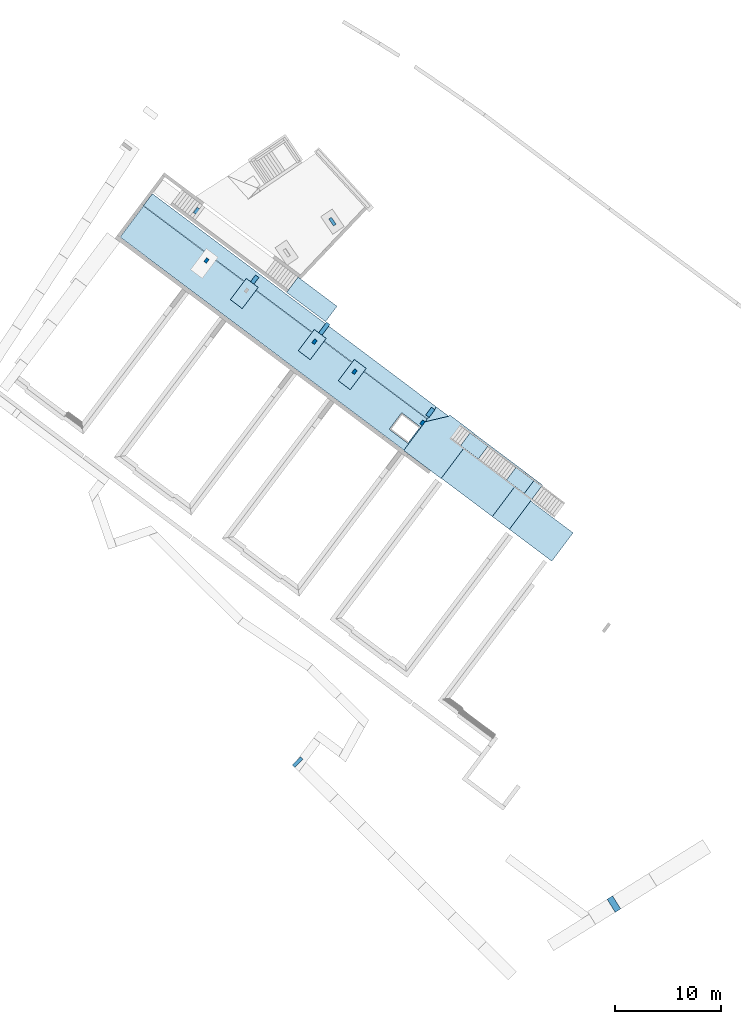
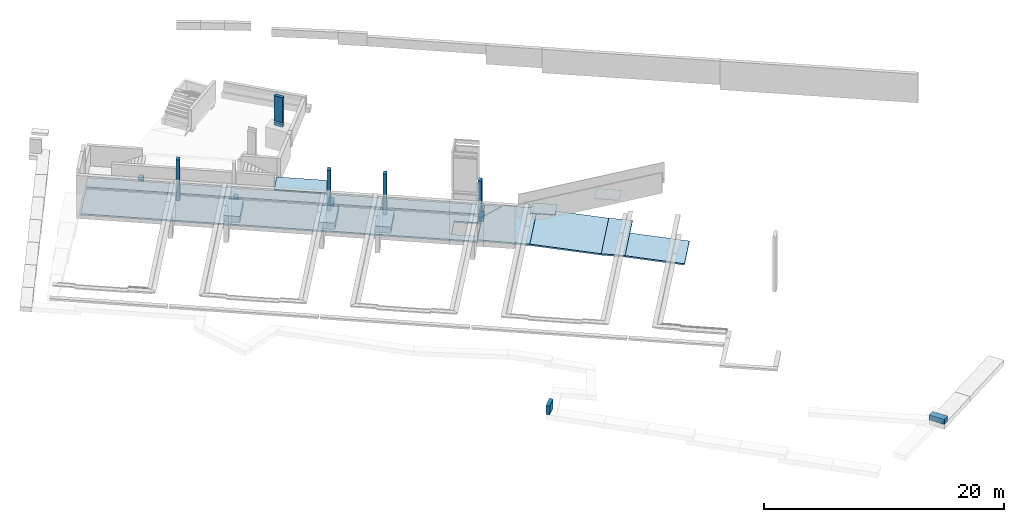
# One storey, part 2 of 11: 15 slabs, 5 columns, 4 beams, 1 opening, 3 elements without a shape of their own.
"""IFC2X3 building model written with IfcOpenShell, lengths in metres."""

import ifcopenshell
import ifcopenshell.guid

model = None  # the IFC model being written
_history = None  # IfcOwnerHistory: only IFC2X3 demands one
_inside = {}  # id of a spatial element -> (the spatial element, [elements in it])
_under = {}  # id of a project, library or spatial element -> (it, [spatial elements below it])
_declared = {}  # id of a project -> (the project, [libraries it declares])
_typed = {}  # id of a type object -> (the type object, [elements of that type])
_made_of = {}  # id of a material, layer set ... -> (it, [elements and type objects made of it])


def new_model(schema):
    """Start an empty IFC model of exactly this schema.

    Asked for "IFC4X3", IfcOpenShell would pick the latest addendum, in which some entities
    have other attributes; the version numbers below select the first issue.
    IFC2X3 requires an IfcOwnerHistory on every rooted entity: one is made here for all.
    """
    global model, _history
    if schema == "IFC4X3":
        model = ifcopenshell.file(schema_version=(4, 3, 0, 0))
    else:
        model = ifcopenshell.file(schema=schema)
    _inside.clear()
    _under.clear()
    _declared.clear()
    _typed.clear()
    _made_of.clear()
    _history = None
    if model.schema == "IFC2X3":
        org = make("IfcOrganization", Name="unknown")
        user = make(
            "IfcPersonAndOrganization",
            ThePerson=make("IfcPerson", FamilyName="unknown"),
            TheOrganization=org,
        )
        app = make(
            "IfcApplication",
            ApplicationDeveloper=org,
            Version="unknown",
            ApplicationFullName="unknown",
            ApplicationIdentifier="unknown",
        )
        _history = make(
            "IfcOwnerHistory",
            OwningUser=user,
            OwningApplication=app,
            ChangeAction="ADDED",
            CreationDate=0,
        )
    return model


def make(cls, **values):
    """One entity of the class cls with the attributes given. An attribute that is None is left unset."""
    return model.create_entity(
        cls, **{name: value for name, value in values.items() if value is not None}
    )


def entity(cls, *values):
    """Any entity or typed value of the class cls, its attributes in the order of the schema. None: left unset."""
    e = model.create_entity(cls)
    for i, value in enumerate(values):
        if value is not None:
            e[i] = value
    return e


def rooted(cls, **values):
    """An entity with a GlobalId (a new one), such as an element, a storey or a relation."""
    return make(cls, GlobalId=ifcopenshell.guid.new(), OwnerHistory=_history, **values)


def si_unit(unit_type, name, prefix=None):
    """IfcSIUnit, for example si_unit("LENGTHUNIT", "METRE", prefix="MILLI")."""
    return make("IfcSIUnit", UnitType=unit_type, Prefix=prefix, Name=name)


def converted_unit(unit_type, name, factor, base, dimensions=None, offset=None):
    """IfcConversionBasedUnit, such as the inch: factor (a typed value) times the base unit."""
    return make(
        "IfcConversionBasedUnit"
        if offset is None
        else "IfcConversionBasedUnitWithOffset",
        ConversionOffset=offset,
        Dimensions=None
        if dimensions is None
        else entity("IfcDimensionalExponents", *dimensions),
        UnitType=unit_type,
        Name=name,
        ConversionFactor=make(
            "IfcMeasureWithUnit", ValueComponent=factor, UnitComponent=base
        ),
    )


def derived_unit(unit_type, elements):
    """IfcDerivedUnit: a product of units, each with its exponent."""
    return make(
        "IfcDerivedUnit",
        Elements=[
            make("IfcDerivedUnitElement", Unit=unit, Exponent=power)
            for unit, power in elements
        ],
        UnitType=unit_type,
    )


def assignment(units):
    """IfcUnitAssignment: the units of a project."""
    return None if units is None else make("IfcUnitAssignment", Units=units)


def point(xyz):
    """IfcCartesianPoint."""
    return None if xyz is None else make("IfcCartesianPoint", Coordinates=xyz)


def direction(xyz):
    """IfcDirection."""
    return None if xyz is None else make("IfcDirection", DirectionRatios=xyz)


def frame(location, z_axis=None, x_axis=None):
    """IfcAxis2Placement3D, a coordinate frame: its origin and axes. An axis left out is left unset."""
    return make(
        "IfcAxis2Placement3D",
        Location=point(location),
        Axis=direction(z_axis),
        RefDirection=direction(x_axis),
    )


def frame_2d(location, x_axis=None):
    """IfcAxis2Placement2D, a coordinate frame in the plane: its origin and x axis."""
    return make(
        "IfcAxis2Placement2D", Location=point(location), RefDirection=direction(x_axis)
    )


def origin():
    """The frame at (0, 0, 0) with its axes left unset."""
    return frame((0.0, 0.0, 0.0))


def origin_2d_with_axis():
    """The frame at (0, 0) in the plane with the x axis (1, 0) written out."""
    return frame_2d((0.0, 0.0), x_axis=(1.0, 0.0))


def place(relative_to, where):
    """IfcLocalPlacement: puts the frame where relative to a parent placement (None: the world)."""
    return make(
        "IfcLocalPlacement", PlacementRelTo=relative_to, RelativePlacement=where
    )


def context(
    kind, dimensions, precision=None, world=None, true_north=None, identifier=None
):
    """IfcGeometricRepresentationContext, for example the 3D "Model" context."""
    return make(
        "IfcGeometricRepresentationContext",
        ContextIdentifier=identifier,
        ContextType=kind,
        CoordinateSpaceDimension=dimensions,
        Precision=precision,
        WorldCoordinateSystem=world,
        TrueNorth=true_north,
    )


def subcontext(parent, identifier, kind, view, scale=None):
    """IfcGeometricRepresentationSubContext, for example "Body" below "Model"."""
    return make(
        "IfcGeometricRepresentationSubContext",
        ContextIdentifier=identifier,
        ContextType=kind,
        ParentContext=parent,
        TargetScale=scale,
        TargetView=view,
    )


def project(units=None, contexts=None):
    """IfcProject with its units and contexts."""
    return rooted(
        "IfcProject",
        Name="project",
        RepresentationContexts=contexts,
        UnitsInContext=assignment(units),
    )


def spatial(cls, under=None, at=None, **own):
    """A site, building, storey or space (cls), placed at a placement, below another one or the project."""
    s = rooted(cls, ObjectPlacement=at, **own)
    if under is not None:
        _under.setdefault(under.id(), (under, []))[1].append(s)
    return s


def polyline(points):
    """IfcPolyline through the points."""
    return make("IfcPolyline", Points=[point(p) for p in points])


def profile(cls, at=None, kind="AREA", **sizes):
    """A parametric profile (cls). Its sizes go by their IFC names, for example OverallWidth=200.0."""
    return make(cls, ProfileType=kind, Position=at, **sizes)


def rectangle(**sizes):
    """IfcRectangleProfileDef."""
    return profile("IfcRectangleProfileDef", **sizes)


def outline(outer, holes=None, kind="AREA"):
    """IfcArbitraryClosedProfileDef: a profile drawn as a closed curve; with holes, ...WithVoids."""
    if holes is None:
        return make("IfcArbitraryClosedProfileDef", ProfileType=kind, OuterCurve=outer)
    return make(
        "IfcArbitraryProfileDefWithVoids",
        ProfileType=kind,
        OuterCurve=outer,
        InnerCurves=holes,
    )


def extrude(swept, where, along, depth):
    """IfcExtrudedAreaSolid: the profile swept, set in the frame where, extruded along a direction by depth."""
    return make(
        "IfcExtrudedAreaSolid",
        SweptArea=swept,
        Position=where,
        ExtrudedDirection=direction(along),
        Depth=depth,
    )


def clip(a, b, op="DIFFERENCE"):
    """IfcBooleanClippingResult: the solid a cut by the half space b."""
    return make(
        "IfcBooleanClippingResult", Operator=op, FirstOperand=a, SecondOperand=b
    )


def halfspace(plane, agree):
    """IfcHalfSpaceSolid: all space on one side of the plane z = 0 of the frame plane."""
    return make(
        "IfcHalfSpaceSolid",
        BaseSurface=make("IfcPlane", Position=plane),
        AgreementFlag=agree,
    )


def shape(context_of_items, identifier, shape_type, items):
    """IfcShapeRepresentation: the items that make up one representation, for example the "Body"."""
    return make(
        "IfcShapeRepresentation",
        ContextOfItems=context_of_items,
        RepresentationIdentifier=identifier,
        RepresentationType=shape_type,
        Items=items,
    )


def source(mapping_origin, context_of_items, identifier, shape_type, items):
    """IfcRepresentationMap: a shape defined once, which mapped items show again and again."""
    return make(
        "IfcRepresentationMap",
        MappingOrigin=mapping_origin,
        MappedRepresentation=shape(context_of_items, identifier, shape_type, items),
    )


def transform(
    local_origin,
    x_axis=None,
    y_axis=None,
    z_axis=None,
    scale=None,
    scale2=None,
    scale3=None,
    uniform=True,
):
    """IfcCartesianTransformationOperator3D, or its non-uniform kind. x_axis, y_axis, z_axis: its Axis1, 2, 3."""
    if uniform:
        return make(
            "IfcCartesianTransformationOperator3D",
            Axis1=direction(x_axis),
            Axis2=direction(y_axis),
            LocalOrigin=point(local_origin),
            Scale=scale,
            Axis3=direction(z_axis),
        )
    return make(
        "IfcCartesianTransformationOperator3DnonUniform",
        Axis1=direction(x_axis),
        Axis2=direction(y_axis),
        LocalOrigin=point(local_origin),
        Scale=scale,
        Axis3=direction(z_axis),
        Scale2=scale2,
        Scale3=scale3,
    )


def mapped(mapping_source, mapping_target):
    """IfcMappedItem: shows the shape of a source again, moved by a transform."""
    return make(
        "IfcMappedItem", MappingSource=mapping_source, MappingTarget=mapping_target
    )


def material(Name=None, Category=None):
    """IfcMaterial."""
    return make("IfcMaterial", Name=Name, Category=Category)


def material_list(materials):
    """IfcMaterialList."""
    return make("IfcMaterialList", Materials=materials)


def layer(
    of_material, thickness, ventilated=None, Name=None, Category=None, Priority=None
):
    """IfcMaterialLayer: one layer of a wall or slab, of a material (None: an air gap)."""
    return make(
        "IfcMaterialLayer",
        Material=of_material,
        LayerThickness=thickness,
        IsVentilated=ventilated,
        Name=Name,
        Category=Category,
        Priority=Priority,
    )


def layer_set(layers, Name=None):
    """IfcMaterialLayerSet."""
    return make("IfcMaterialLayerSet", MaterialLayers=layers, LayerSetName=Name)


def layer_usage(for_layer_set, set_direction, sense, offset, extent=None):
    """IfcMaterialLayerSetUsage: how a layer set lies in its element."""
    return make(
        "IfcMaterialLayerSetUsage",
        ForLayerSet=for_layer_set,
        LayerSetDirection=set_direction,
        DirectionSense=sense,
        OffsetFromReferenceLine=offset,
        ReferenceExtent=extent,
    )


def made_of(thing, what):
    """Note that an element or type object is made of a material, layer set ...; save() writes the relation."""
    if what is not None:
        _made_of.setdefault(what.id(), (what, []))[1].append(thing)
    return thing


def type_object(cls, material=None, **own):
    """A type object (cls), such as IfcWallType, which elements share."""
    return made_of(rooted(cls, **own), material)


def type_shapes(of_type, sources):
    """Give a type object the sources (RepresentationMaps) that its elements show as mapped items."""
    of_type.RepresentationMaps = sources


def element(
    cls,
    number,
    at=None,
    inside=None,
    cuts=None,
    type_object=None,
    material=None,
    context=None,
    identifier="Body",
    shape_type=None,
    held_by="IfcProductDefinitionShape",
    body=None,
    shapes=None,
    **own,
):
    """One element of the class cls, such as IfcWall. Its Tag is "e" and its number.

    at: its placement. inside: the storey or other place that contains it. cuts: it is an
    opening in that element (IfcRelVoidsElement). A single representation is given by context,
    identifier, shape_type and body (its items); several are given by shapes. held_by: the class
    of the entity that holds the representations. save() writes the other relations.
    """
    e = rooted(cls, Tag="e%d" % number, ObjectPlacement=at, **own)
    if body is not None:
        shapes = [shape(context, identifier, shape_type, body)]
    if shapes is not None:
        e.Representation = make(held_by, Representations=shapes)
    if inside is not None:
        _inside.setdefault(inside.id(), (inside, []))[1].append(e)
    if cuts is not None:
        rooted(
            "IfcRelVoidsElement", RelatingBuildingElement=cuts, RelatedOpeningElement=e
        )
    if type_object is not None:
        _typed.setdefault(type_object.id(), (type_object, []))[1].append(e)
    return made_of(e, material)


def aggregate(whole, parts):
    """IfcRelAggregates: a whole, such as a stair, and the parts it consists of."""
    return rooted("IfcRelAggregates", RelatingObject=whole, RelatedObjects=parts)


def save(model, path):
    """Write the relations noted so far, then the file.

    IfcRelAggregates (storeys below a building ...), IfcRelContainedInSpatialStructure (elements
    in a storey), IfcRelDefinesByType, IfcRelAssociatesMaterial and IfcRelDeclares: one each for
    every whole, place, type object, material and project.
    """
    for whole, parts in _under.values():
        aggregate(whole, parts)
    for where, things in _inside.values():
        rooted(
            "IfcRelContainedInSpatialStructure",
            RelatedElements=things,
            RelatingStructure=where,
        )
    for kind, things in _typed.values():
        rooted("IfcRelDefinesByType", RelatedObjects=things, RelatingType=kind)
    for what, things in _made_of.values():
        rooted("IfcRelAssociatesMaterial", RelatedObjects=things, RelatingMaterial=what)
    for by, libraries in _declared.values():
        rooted("IfcRelDeclares", RelatingContext=by, RelatedDefinitions=libraries)
    model.write(path)


model = new_model("IFC2X3")

# Units and contexts
model_context = context("Model", 3, precision=1e-05, world=origin(), true_north=direction((6.123031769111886e-17, 1.0)))
body_context = subcontext(model_context, "Body", "Model", "MODEL_VIEW")
ifc_project = project(units=[si_unit("LENGTHUNIT", "METRE"), si_unit("AREAUNIT", "SQUARE_METRE"), si_unit("VOLUMEUNIT", "CUBIC_METRE"), converted_unit("PLANEANGLEUNIT", "DEGREE", entity("IfcRatioMeasure", 0.017453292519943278), si_unit("PLANEANGLEUNIT", "RADIAN"), dimensions=[0, 0, 0, 0, 0, 0, 0]), si_unit("MASSUNIT", "GRAM", prefix="KILO"), derived_unit("MASSDENSITYUNIT", [(si_unit("MASSUNIT", "GRAM", prefix="KILO"), 1), (si_unit("LENGTHUNIT", "METRE"), -3)]), derived_unit("IONCONCENTRATIONUNIT", [(si_unit("MASSUNIT", "GRAM", prefix="KILO"), 1), (si_unit("LENGTHUNIT", "METRE"), -3)]), derived_unit("MOMENTOFINERTIAUNIT", [(si_unit("LENGTHUNIT", "METRE"), 4)]), si_unit("TIMEUNIT", "SECOND"), si_unit("FREQUENCYUNIT", "HERTZ"), si_unit("THERMODYNAMICTEMPERATUREUNIT", "DEGREE_CELSIUS"), derived_unit("THERMALTRANSMITTANCEUNIT", [(si_unit("MASSUNIT", "GRAM", prefix="KILO"), 1), (si_unit("THERMODYNAMICTEMPERATUREUNIT", "KELVIN"), -1), (si_unit("TIMEUNIT", "SECOND"), -3)]), derived_unit("THERMALCONDUCTANCEUNIT", [(si_unit("MASSUNIT", "GRAM", prefix="KILO"), 1), (si_unit("THERMODYNAMICTEMPERATUREUNIT", "KELVIN"), -1), (si_unit("TIMEUNIT", "SECOND"), -3), (si_unit("LENGTHUNIT", "METRE"), 1)]), derived_unit("VOLUMETRICFLOWRATEUNIT", [(si_unit("LENGTHUNIT", "METRE"), 3), (si_unit("TIMEUNIT", "SECOND"), -1)]), derived_unit("MASSFLOWRATEUNIT", [(si_unit("MASSUNIT", "GRAM", prefix="KILO"), 1), (si_unit("TIMEUNIT", "SECOND"), -1)]), derived_unit("ROTATIONALFREQUENCYUNIT", [(si_unit("TIMEUNIT", "SECOND"), -1)]), si_unit("ELECTRICCURRENTUNIT", "AMPERE"), si_unit("ELECTRICVOLTAGEUNIT", "VOLT"), si_unit("POWERUNIT", "WATT"), si_unit("FORCEUNIT", "NEWTON", prefix="KILO"), si_unit("ILLUMINANCEUNIT", "LUX"), si_unit("LUMINOUSFLUXUNIT", "LUMEN"), si_unit("LUMINOUSINTENSITYUNIT", "CANDELA"), derived_unit("USERDEFINED", [(si_unit("MASSUNIT", "GRAM", prefix="KILO"), -1), (si_unit("LENGTHUNIT", "METRE"), -2), (si_unit("TIMEUNIT", "SECOND"), 3), (si_unit("LUMINOUSFLUXUNIT", "LUMEN"), 1)]), derived_unit("USERDEFINED", [(si_unit("MASSUNIT", "GRAM", prefix="KILO"), 1), (si_unit("TIMEUNIT", "SECOND"), -3), (si_unit("LENGTHUNIT", "METRE"), 3), (si_unit("ELECTRICCURRENTUNIT", "AMPERE"), -2)]), derived_unit("SOUNDPOWERUNIT", [(si_unit("MASSUNIT", "GRAM", prefix="KILO"), 1), (si_unit("TIMEUNIT", "SECOND"), -3), (si_unit("LENGTHUNIT", "METRE"), 2)]), derived_unit("SOUNDPRESSUREUNIT", [(si_unit("MASSUNIT", "GRAM", prefix="KILO"), 1), (si_unit("LENGTHUNIT", "METRE"), -1), (si_unit("TIMEUNIT", "SECOND"), -2)]), derived_unit("LINEARVELOCITYUNIT", [(si_unit("LENGTHUNIT", "METRE"), 1), (si_unit("TIMEUNIT", "SECOND"), -1)]), si_unit("PRESSUREUNIT", "PASCAL"), derived_unit("USERDEFINED", [(si_unit("MASSUNIT", "GRAM", prefix="KILO"), 1), (si_unit("LENGTHUNIT", "METRE"), -2), (si_unit("TIMEUNIT", "SECOND"), -2)]), derived_unit("LINEARFORCEUNIT", [(si_unit("MASSUNIT", "GRAM", prefix="KILO"), 1), (si_unit("TIMEUNIT", "SECOND"), -2)]), derived_unit("PLANARFORCEUNIT", [(si_unit("MASSUNIT", "GRAM", prefix="KILO"), 1), (si_unit("LENGTHUNIT", "METRE"), -1), (si_unit("TIMEUNIT", "SECOND"), -2)]), derived_unit("SPECIFICHEATCAPACITYUNIT", [(si_unit("THERMODYNAMICTEMPERATUREUNIT", "KELVIN"), -1), (si_unit("LENGTHUNIT", "METRE"), 2), (si_unit("TIMEUNIT", "SECOND"), -2)]), derived_unit("HEATINGVALUEUNIT", [(si_unit("LENGTHUNIT", "METRE"), 2), (si_unit("TIMEUNIT", "SECOND"), -2)]), derived_unit("VAPORPERMEABILITYUNIT", [(si_unit("LENGTHUNIT", "METRE"), -1), (si_unit("TIMEUNIT", "SECOND"), 1)]), derived_unit("DYNAMICVISCOSITYUNIT", [(si_unit("MASSUNIT", "GRAM", prefix="KILO"), 1), (si_unit("TIMEUNIT", "SECOND"), -1), (si_unit("LENGTHUNIT", "METRE"), -1)]), derived_unit("THERMALEXPANSIONCOEFFICIENTUNIT", [(si_unit("THERMODYNAMICTEMPERATUREUNIT", "KELVIN"), -1)]), derived_unit("MODULUSOFELASTICITYUNIT", [(si_unit("MASSUNIT", "GRAM", prefix="KILO"), 1), (si_unit("LENGTHUNIT", "METRE"), -1), (si_unit("TIMEUNIT", "SECOND"), -2)]), derived_unit("ISOTHERMALMOISTURECAPACITYUNIT", [(si_unit("LENGTHUNIT", "METRE"), 3), (si_unit("MASSUNIT", "GRAM", prefix="KILO"), -1)]), derived_unit("MOISTUREDIFFUSIVITYUNIT", [(si_unit("TIMEUNIT", "SECOND"), -1), (si_unit("LENGTHUNIT", "METRE"), 2)])], contexts=[model_context])

# Site, building, storey
site_placement = place(None, origin())
site = spatial("IfcSite", under=ifc_project, at=site_placement, Name="Default", CompositionType="ELEMENT")
building_placement = place(site_placement, frame((0.0, 0.0, 235.0), z_axis=(0.0, 0.0, 1.0), x_axis=(-0.7996477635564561, 0.6004693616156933, 0.0)))
building = spatial("IfcBuilding", under=site, at=building_placement, CompositionType="ELEMENT")
storey_placement = place(building_placement, frame((0.0, 0.0, -4.459999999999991)))
storey = spatial("IfcBuildingStorey", under=building, at=storey_placement, Name="PS1- Vestuari", CompositionType="ELEMENT", Elevation=-4.459999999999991)

# Columns
ifc_material_1 = material(Name="_Formigó- T1- STR")
column_type_1 = type_object("IfcColumnType", Name="STR- P- Formigó- Rectangular- T1:30x45cm", PredefinedType="COLUMN", material=ifc_material_1)
shared_shape_1 = source(origin(), body_context, "Body", "SweptSolid", [
    extrude(rectangle(XDim=0.4500000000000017, YDim=0.3000000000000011, at=origin_2d_with_axis()), frame((66.59514768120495, -39.915191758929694, -4.899999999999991), z_axis=(0.0, 0.0, 1.0), x_axis=(0.0, -1.0, 0.0)), (0.0, 0.0, 1.0), 0.08999999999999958),
    extrude(rectangle(XDim=0.4500000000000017, YDim=0.3000000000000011, at=origin_2d_with_axis()), frame((66.59514768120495, -39.915191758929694, -4.659999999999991), z_axis=(0.0, 0.0, 1.0), x_axis=(0.0, -1.0, 0.0)), (0.0, 0.0, 1.0), 4.139999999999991),
])
type_shapes(column_type_1, [shared_shape_1])
column_1_placement = place(storey_placement, frame((0.0, 0.0, 4.459999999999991)))
element("IfcColumn", 1, at=column_1_placement, inside=storey, type_object=column_type_1, material=ifc_material_1, Name="STR- P- Formigó- Rectangular- T1:30x45cm", ObjectType="STR- P- Formigó- Rectangular- T1:30x45cm", context=body_context, shape_type="MappedRepresentation", body=[
    mapped(shared_shape_1, transform((0.0, 0.0, 0.0), scale=1.0)),
])
column_type_2 = type_object("IfcColumnType", Name="STR- P- Formigó- Rectangular- T1:30x45cm", PredefinedType="COLUMN", material=ifc_material_1)
shared_shape_2 = source(origin(), body_context, "Body", "SweptSolid", [
    extrude(rectangle(XDim=0.4500000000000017, YDim=0.3000000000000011, at=origin_2d_with_axis()), frame((53.895147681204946, -39.915191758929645, -4.899999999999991), z_axis=(0.0, 0.0, 1.0), x_axis=(0.0, -1.0, 0.0)), (0.0, 0.0, 1.0), 0.08999999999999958),
    extrude(rectangle(XDim=0.4500000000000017, YDim=0.3000000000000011, at=origin_2d_with_axis()), frame((53.895147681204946, -39.915191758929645, -4.659999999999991), z_axis=(0.0, 0.0, 1.0), x_axis=(0.0, -1.0, 0.0)), (0.0, 0.0, 1.0), 4.139999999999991),
])
type_shapes(column_type_2, [shared_shape_2])
column_2_placement = place(storey_placement, frame((0.0, 0.0, 4.459999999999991)))
element("IfcColumn", 2, at=column_2_placement, inside=storey, type_object=column_type_2, material=ifc_material_1, Name="STR- P- Formigó- Rectangular- T1:30x45cm", ObjectType="STR- P- Formigó- Rectangular- T1:30x45cm", context=body_context, shape_type="MappedRepresentation", body=[
    mapped(shared_shape_2, transform((0.0, 0.0, 0.0), scale=1.0)),
])
column_type_3 = type_object("IfcColumnType", Name="STR- P- Formigó- Rectangular- T1:30x45cm", PredefinedType="COLUMN", material=ifc_material_1)
shared_shape_3 = source(origin(), body_context, "Body", "SweptSolid", [
    extrude(rectangle(XDim=0.4500000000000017, YDim=0.3000000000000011, at=origin_2d_with_axis()), frame((49.19514768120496, -39.91519175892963, -4.899999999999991), z_axis=(0.0, 0.0, 1.0), x_axis=(0.0, -1.0, 0.0)), (0.0, 0.0, 1.0), 0.08999999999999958),
    extrude(rectangle(XDim=0.4500000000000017, YDim=0.3000000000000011, at=origin_2d_with_axis()), frame((49.19514768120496, -39.91519175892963, -4.659999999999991), z_axis=(0.0, 0.0, 1.0), x_axis=(0.0, -1.0, 0.0)), (0.0, 0.0, 1.0), 4.139999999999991),
])
type_shapes(column_type_3, [shared_shape_3])
column_3_placement = place(storey_placement, frame((0.0, 0.0, 4.459999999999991)))
element("IfcColumn", 3, at=column_3_placement, inside=storey, type_object=column_type_3, material=ifc_material_1, Name="STR- P- Formigó- Rectangular- T1:30x45cm", ObjectType="STR- P- Formigó- Rectangular- T1:30x45cm", context=body_context, shape_type="MappedRepresentation", body=[
    mapped(shared_shape_3, transform((0.0, 0.0, 0.0), scale=1.0)),
])
column_type_4 = type_object("IfcColumnType", Name="STR- P- Formigó- Rectangular- T1:30x45cm", PredefinedType="COLUMN", material=ifc_material_1)
shared_shape_4 = source(origin(), body_context, "Body", "SweptSolid", [
    extrude(rectangle(XDim=0.4500000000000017, YDim=0.3000000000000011, at=origin_2d_with_axis()), frame((41.19514768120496, -39.9151917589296, -4.899999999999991), z_axis=(0.0, 0.0, 1.0), x_axis=(0.0, -1.0, 0.0)), (0.0, 0.0, 1.0), 0.08999999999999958),
    extrude(rectangle(XDim=0.4500000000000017, YDim=0.3000000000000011, at=origin_2d_with_axis()), frame((41.19514768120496, -39.9151917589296, -4.659999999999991), z_axis=(0.0, 0.0, 1.0), x_axis=(0.0, -1.0, 0.0)), (0.0, 0.0, 1.0), 4.139999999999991),
])
type_shapes(column_type_4, [shared_shape_4])
column_4_placement = place(storey_placement, frame((0.0, 0.0, 4.459999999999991)))
element("IfcColumn", 4, at=column_4_placement, inside=storey, type_object=column_type_4, material=ifc_material_1, Name="STR- P- Formigó- Rectangular- T1:30x45cm", ObjectType="STR- P- Formigó- Rectangular- T1:30x45cm", context=body_context, shape_type="MappedRepresentation", body=[
    mapped(shared_shape_4, transform((0.0, 0.0, 0.0), scale=1.0)),
])
column_type_5 = type_object("IfcColumnType", Name="STR- P- Formigó- Rectangular- T1:30x80 cm", PredefinedType="COLUMN", material=ifc_material_1)
shared_shape_5 = source(origin(), body_context, "Body", "SweptSolid", [
    clip(extrude(rectangle(XDim=0.8000000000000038, YDim=0.3000000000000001, at=frame_2d((-2.8033131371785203e-15, 8.18789480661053e-15), x_axis=(1.0, 0.0))), frame((59.3191738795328, -49.950135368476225, -3.5199999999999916), z_axis=(0.0, 0.0, 1.0), x_axis=(-0.9460037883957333, 0.3241555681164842, 0.0)), (0.0, 0.0, 1.0), 0.2916001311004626), halfspace(frame((63.23614768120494, -44.140191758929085, -3.3500299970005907), z_axis=(0.0, 0.01999600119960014, 0.999800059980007), x_axis=(0.0, -0.999800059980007, 0.01999600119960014)), False)),
    clip(extrude(rectangle(XDim=0.8000000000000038, YDim=0.3000000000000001, at=frame_2d((-2.8033131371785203e-15, 8.18789480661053e-15), x_axis=(1.0, 0.0))), frame((59.3191738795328, -49.950135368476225, -3.0892323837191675), z_axis=(0.0, 0.0, 1.0), x_axis=(-0.9460037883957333, 0.3241555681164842, 0.0)), (0.0, 0.0, 1.0), 2.5692323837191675), halfspace(frame((63.23614768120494, -44.140191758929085, -3.199999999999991), z_axis=(0.0, -0.01999600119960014, -0.999800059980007), x_axis=(0.0, 0.999800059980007, -0.01999600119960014)), False)),
])
type_shapes(column_type_5, [shared_shape_5])
column_5_placement = place(storey_placement, frame((0.0, 0.0, 4.459999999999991)))
element("IfcColumn", 5, at=column_5_placement, inside=storey, type_object=column_type_5, material=ifc_material_1, Name="STR- P- Formigó- Rectangular- T1:30x80 cm", ObjectType="STR- P- Formigó- Rectangular- T1:30x80 cm", context=body_context, shape_type="MappedRepresentation", body=[
    mapped(shared_shape_5, transform((0.0, 0.0, 0.0), scale=1.0)),
])

# Beams
beam_type_1 = type_object("IfcBeamType", Name="STR- R- Formigó- Rectangular- T1:40x45 cm", PredefinedType="BEAM", material=ifc_material_1)
shared_shape_6 = source(origin(), body_context, "Body", "SweptSolid", [
    extrude(rectangle(XDim=0.4499999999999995, YDim=0.3999999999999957, at=frame_2d((4.3298697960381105e-15, 0.0), x_axis=(0.0, 1.0))), frame((53.895147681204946, -40.815191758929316, -5.124999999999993), z_axis=(0.0, -1.0, 0.0), x_axis=(-1.0, 0.0, 0.0)), (0.0, 0.0, 1.0), 1.2527000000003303),
    extrude(rectangle(XDim=0.04999999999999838, YDim=0.3999999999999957, at=frame_2d((0.0, -1.0824674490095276e-15), x_axis=(0.0, 1.0))), frame((53.895147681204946, -40.815191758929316, -5.374999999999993), z_axis=(0.0, -1.0, 0.0), x_axis=(-1.0, 0.0, 0.0)), (0.0, 0.0, 1.0), 1.2527000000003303),
])
type_shapes(beam_type_1, [shared_shape_6])
beam_1_placement = place(storey_placement, frame((0.0, 0.0, 4.459999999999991)))
element("IfcBeam", 6, at=beam_1_placement, inside=storey, type_object=beam_type_1, material=ifc_material_1, Name="STR- R- Formigó- Rectangular- T1:40x45 cm", ObjectType="STR- R- Formigó- Rectangular- T1:40x45 cm", context=body_context, shape_type="MappedRepresentation", body=[
    mapped(shared_shape_6, transform((0.0, 0.0, 0.0), scale=1.0)),
])
beam_type_2 = type_object("IfcBeamType", Name="STR- R- Formigó- Rectangular- T1:40x45 cm", PredefinedType="BEAM", material=ifc_material_1)
shared_shape_7 = source(origin(), body_context, "Body", "SweptSolid", [
    extrude(rectangle(XDim=0.4499999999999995, YDim=0.40000000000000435, at=frame_2d((4.3298697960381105e-15, 0.0), x_axis=(0.0, 1.0))), frame((61.895147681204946, -40.81519175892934, -5.124999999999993), z_axis=(0.0, -1.0, 0.0), x_axis=(-1.0, 0.0, 0.0)), (0.0, 0.0, 1.0), 0.7749999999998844),
    extrude(rectangle(XDim=0.04999999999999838, YDim=0.40000000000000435, at=frame_2d((0.0, 1.0824674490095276e-15), x_axis=(0.0, 1.0))), frame((61.895147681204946, -40.81519175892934, -5.374999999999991), z_axis=(0.0, -1.0, 0.0), x_axis=(-1.0, 0.0, 0.0)), (0.0, 0.0, 1.0), 0.7749999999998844),
])
type_shapes(beam_type_2, [shared_shape_7])
beam_2_placement = place(storey_placement, frame((0.0, 0.0, 4.459999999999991)))
element("IfcBeam", 7, at=beam_2_placement, inside=storey, type_object=beam_type_2, material=ifc_material_1, Name="STR- R- Formigó- Rectangular- T1:40x45 cm", ObjectType="STR- R- Formigó- Rectangular- T1:40x45 cm", context=body_context, shape_type="MappedRepresentation", body=[
    mapped(shared_shape_7, transform((0.0, 0.0, 0.0), scale=1.0)),
])
beam_type_3 = type_object("IfcBeamType", Name="STR- R- Formigó- Rectangular- T1:40x60 cm", PredefinedType="BEAM", material=ifc_material_1)
shared_shape_8 = source(origin(), body_context, "Body", "SweptSolid", [
    extrude(rectangle(XDim=0.6000000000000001, YDim=0.40000000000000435, at=frame_2d((4.3298697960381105e-15, 0.0), x_axis=(0.0, 1.0))), frame((70.09514768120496, -42.790191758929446, -5.199999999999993), z_axis=(0.0, -1.0, 0.0), x_axis=(-1.0, 0.0, 0.0)), (0.0, 0.0, 1.0), 0.5999999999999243),
    extrude(rectangle(XDim=0.04999999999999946, YDim=0.3999999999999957, at=frame_2d((0.0, 5.412337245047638e-16), x_axis=(0.0, 1.0))), frame((70.09514768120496, -42.77749175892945, -5.5249999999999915), z_axis=(0.0, -1.0, 0.0), x_axis=(-1.0, 0.0, 0.0)), (0.0, 0.0, 1.0), 0.6253999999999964),
])
type_shapes(beam_type_3, [shared_shape_8])
beam_3_placement = place(storey_placement, frame((0.0, 0.0, 4.459999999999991)))
element("IfcBeam", 8, at=beam_3_placement, inside=storey, type_object=beam_type_3, material=ifc_material_1, Name="STR- R- Formigó- Rectangular- T1:40x60 cm", ObjectType="STR- R- Formigó- Rectangular- T1:40x60 cm", context=body_context, shape_type="MappedRepresentation", body=[
    mapped(shared_shape_8, transform((0.0, 0.0, 0.0), scale=1.0)),
])
beam_type_4 = type_object("IfcBeamType", Name="STR- R- Formigó- Rectangular- T1:40x45 cm", PredefinedType="BEAM", material=ifc_material_1)
shared_shape_9 = source(origin(), body_context, "Body", "SweptSolid", [
    extrude(rectangle(XDim=0.4500000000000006, YDim=0.40000000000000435, at=frame_2d((-4.3298697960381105e-15, -5.412337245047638e-16), x_axis=(0.0, 1.0))), frame((41.19514768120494, -41.590191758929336, -5.124999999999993), z_axis=(0.0, 1.0, 0.0), x_axis=(-1.0, 0.0, 0.0)), (0.0, 0.0, 1.0), 0.9049999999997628),
    extrude(rectangle(XDim=0.0499999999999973, YDim=0.3999999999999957, at=frame_2d((0.0, 5.412337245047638e-16), x_axis=(0.0, 1.0))), frame((41.19514768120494, -41.590191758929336, -5.374999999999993), z_axis=(0.0, 1.0, 0.0), x_axis=(-1.0, 0.0, 0.0)), (0.0, 0.0, 1.0), 0.9049999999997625),
])
type_shapes(beam_type_4, [shared_shape_9])
beam_4_placement = place(storey_placement, frame((0.0, 0.0, 4.459999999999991)))
element("IfcBeam", 9, at=beam_4_placement, inside=storey, type_object=beam_type_4, material=ifc_material_1, Name="STR- R- Formigó- Rectangular- T1:40x45 cm", ObjectType="STR- R- Formigó- Rectangular- T1:40x45 cm", context=body_context, shape_type="MappedRepresentation", body=[
    mapped(shared_shape_9, transform((0.0, 0.0, 0.0), scale=1.0)),
])

# Slab, opening
ifc_material_2 = material(Name="_Formigó- Solera- T1- STR")
ifc_layer_1 = layer(ifc_material_2, 0.14999999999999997)
ifc_layer_set_1 = layer_set([ifc_layer_1], Name="Suelo:STR- L- Formigó- Solera- T1- 15 cm")
ifc_layer_usage_1 = layer_usage(ifc_layer_set_1, "AXIS3", "POSITIVE", 0.0)
slab_type_1 = type_object("IfcSlabType", Name="Suelo:STR- L- Formigó- Solera- T1- 15 cm", PredefinedType="FLOOR", material=ifc_layer_set_1)
slab_1_placement = place(storey_placement, frame((41.04514768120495, -40.45519175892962, -0.34999999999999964)))
slab_1 = element("IfcSlab", 10, at=slab_1_placement, inside=storey, type_object=slab_type_1, material=ifc_layer_usage_1, Name="Suelo:STR- L- Formigó- Solera- T1- 15 cm", ObjectType="Suelo:STR- L- Formigó- Solera- T1- 15 cm", PredefinedType="FLOOR", context=body_context, shape_type="SweptSolid", body=[
    extrude(rectangle(XDim=33.36999999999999, YDim=3.660000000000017, at=frame_2d((0.0, 0.0), x_axis=(-1.0, 0.0))), frame((16.685000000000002, 1.8300000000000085, 0.15000000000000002), z_axis=(0.0, 0.0, -1.0), x_axis=(-1.0, 0.0, 0.0)), (0.0, 0.0, 1.0), 0.15000000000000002),
])
opening_placement = place(slab_1_placement, origin())
element("IfcOpeningElement", 11, at=opening_placement, cuts=slab_1, Name="Suelo:STR- L- Formigó- Solera- T1- 15 cm", ObjectType="Opening", context=body_context, shape_type="SweptSolid", body=[
    extrude(rectangle(XDim=1.9400000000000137, YDim=2.175000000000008, at=frame_2d((2.1649348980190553e-15, 0.0), x_axis=(1.0, 0.0))), frame((1.1874999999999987, 1.9420018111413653, 0.15000000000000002), z_axis=(0.0, 0.0, -1.0), x_axis=(0.0, -1.0, 0.0)), (0.0, 0.0, 1.0), 0.14999999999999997),
])

# Slabs
slab_2_placement = place(storey_placement, origin())
element("IfcSlab", 12, at=slab_2_placement, inside=storey, type_object=slab_type_1, material=ifc_layer_usage_1, Name="Suelo:STR- L- Formigó- Solera- T1- 15 cm", ObjectType="Suelo:STR- L- Formigó- Solera- T1- 15 cm", PredefinedType="FLOOR", context=body_context, shape_type="SweptSolid", body=[
    clip(clip(extrude(rectangle(XDim=1.8002499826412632, YDim=4.577, at=frame_2d((-4.3298697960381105e-15, -8.659739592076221e-15), x_axis=(1.0, 0.0))), frame((56.48364768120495, -42.940191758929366, -0.03499999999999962), z_axis=(0.0, -0.016664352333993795, -0.9998611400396), x_axis=(0.0, 0.9998611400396, -0.016664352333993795)), (0.016664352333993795, 0.0, 0.9998611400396), 0.15002083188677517), halfspace(frame((56.48364768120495, -42.940191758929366, -0.18499999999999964), z_axis=(0.0, -0.016664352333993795, -0.9998611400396), x_axis=(0.0, -0.9998611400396, 0.016664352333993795)), False)), halfspace(frame((56.48364768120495, -42.940191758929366, -0.03499999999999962), z_axis=(0.0, 0.016664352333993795, 0.9998611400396), x_axis=(0.0, -0.9998611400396, 0.016664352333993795)), False)),
])
ifc_material_3 = material(Name="_Formigó- Solera- T1 ext- STR")
ifc_layer_2 = layer(ifc_material_3, 0.14999999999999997)
ifc_layer_set_2 = layer_set([ifc_layer_2], Name="Suelo:STR- L- Formigó- Solera exterior- T1- 15 cm")
ifc_layer_usage_2 = layer_usage(ifc_layer_set_2, "AXIS3", "POSITIVE", 0.0)
slab_type_2 = type_object("IfcSlabType", Name="Suelo:STR- L- Formigó- Solera exterior- T1- 15 cm", PredefinedType="FLOOR", material=ifc_layer_set_2)
slab_3_placement = place(storey_placement, origin())
element("IfcSlab", 13, at=slab_3_placement, inside=storey, type_object=slab_type_2, material=ifc_layer_usage_2, Name="Suelo:STR- L- Formigó- Solera exterior- T1- 15 cm", ObjectType="Suelo:STR- L- Formigó- Solera exterior- T1- 15 cm", PredefinedType="FLOOR", context=body_context, shape_type="SweptSolid", body=[
    clip(clip(extrude(rectangle(XDim=1.4053202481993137, YDim=33.400000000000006, at=frame_2d((2.1649348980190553e-14, 8.881784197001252e-15), x_axis=(1.0, 0.0))), frame((57.745147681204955, -41.18769175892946, -0.03499999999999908), z_axis=(0.0, 0.021347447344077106, -0.999772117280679), x_axis=(0.0, 0.999772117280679, 0.021347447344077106)), (-0.021347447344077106, 0.0, 0.999772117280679), 0.1500341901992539), halfspace(frame((57.745147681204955, -41.18769175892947, -0.18499999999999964), z_axis=(0.0, 0.021347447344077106, -0.999772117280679), x_axis=(0.0, -0.999772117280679, -0.021347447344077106)), False)), halfspace(frame((57.745147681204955, -41.18769175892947, -0.03499999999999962), z_axis=(0.0, -0.021347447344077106, 0.999772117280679), x_axis=(0.0, -0.999772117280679, -0.021347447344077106)), False)),
])

slab_4_placement = place(storey_placement, frame((23.64480549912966, -42.010191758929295, -1.169999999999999)))
slab_4 = element("IfcSlab", 14, at=slab_4_placement, inside=storey, Name="Suelo:STR- L- Formigó- Solera exterior- T1- 15 cm", ObjectType="Suelo:STR- L- Formigó- Solera exterior- T1- 15 cm", PredefinedType="NOTDEFINED")
slab_5_placement = place(slab_4_placement, origin())
slab_5 = element("IfcSlab", 15, at=slab_5_placement, type_object=slab_type_2, material=ifc_layer_set_2, Name="Suelo:STR- L- Formigó- Solera exterior- T1- 15 cm", ObjectType="Suelo:STR- L- Formigó- Solera exterior- T1- 15 cm", PredefinedType="FLOOR", context=body_context, shape_type="SweptSolid", body=[
    extrude(rectangle(XDim=6.0191693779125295, YDim=5.214999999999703, at=frame_2d((1.7763568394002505e-15, 2.220446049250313e-15), x_axis=(-1.0, 0.0))), frame((10.000342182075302, 2.607499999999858, 0.8199999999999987), z_axis=(-0.07974522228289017, 0.0, 0.9968152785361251), x_axis=(0.9968152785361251, 0.0, 0.07974522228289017)), (-0.07974522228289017, 0.0, -0.9968152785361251), 0.14999999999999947),
])
slab_6_placement = place(slab_4_placement, origin())
slab_6 = element("IfcSlab", 16, at=slab_6_placement, type_object=slab_type_2, material=ifc_layer_set_2, Name="Suelo:STR- L- Formigó- Solera exterior- T1- 15 cm", ObjectType="Suelo:STR- L- Formigó- Solera exterior- T1- 15 cm", PredefinedType="FLOOR", context=body_context, shape_type="SweptSolid", body=[
    extrude(rectangle(XDim=3.344999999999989, YDim=5.016315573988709, at=frame_2d((2.220446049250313e-15, 2.1094237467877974e-15), x_axis=(0.0, -1.0))), frame((2.500171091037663, 3.5424999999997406, 0.3499999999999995), z_axis=(-0.07973979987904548, 0.0, 0.99681571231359), x_axis=(0.99681571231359, 0.0, 0.07973979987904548)), (-0.07973979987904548, 0.0, -0.99681571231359), 0.14999999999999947),
])
slab_7_placement = place(slab_4_placement, origin())
slab_7 = element("IfcSlab", 17, at=slab_7_placement, type_object=slab_type_2, material=ifc_layer_set_2, Name="Suelo:STR- L- Formigó- Solera exterior- T1- 15 cm", ObjectType="Suelo:STR- L- Formigó- Solera exterior- T1- 15 cm", PredefinedType="FLOOR", context=body_context, shape_type="SweptSolid", body=[
    extrude(rectangle(XDim=2.000224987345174, YDim=5.214999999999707, at=frame_2d((0.0, 0.0), x_axis=(-1.0, 0.0))), frame((6.000342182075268, 2.607499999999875, 0.5649999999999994), z_axis=(-0.014998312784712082, 0.0, 0.9998875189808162), x_axis=(0.9998875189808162, 0.0, 0.014998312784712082)), (-0.014998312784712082, 0.0, -0.9998875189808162), 0.14999999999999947),
])
aggregate(slab_4, [slab_5, slab_6, slab_7])

slab_8_placement = place(storey_placement, frame((36.64514768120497, -42.04019175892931, -0.258)))
slab_8 = element("IfcSlab", 18, at=slab_8_placement, inside=storey, Name="Suelo:STR- L- Formigó- Solera exterior- T1- 15 cm", ObjectType="Suelo:STR- L- Formigó- Solera exterior- T1- 15 cm", PredefinedType="NOTDEFINED")
slab_9_placement = place(slab_8_placement, origin())
slab_9 = element("IfcSlab", 19, at=slab_9_placement, type_object=slab_type_2, material=ifc_layer_set_2, Name="Suelo:STR- L- Formigó- Solera exterior- T1- 15 cm", ObjectType="Suelo:STR- L- Formigó- Solera exterior- T1- 15 cm", PredefinedType="FLOOR", context=body_context, shape_type="SweptSolid", body=[
    extrude(outline(polyline([(-2.200439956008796, -2.637500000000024), (0.7401479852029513, -2.637500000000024), (0.7401479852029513, -2.487499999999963), (2.200439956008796, -0.7400274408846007), (2.200439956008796, 2.637500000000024), (-2.200439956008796, 2.637500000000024), (-2.200439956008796, -2.637500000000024)])), frame((2.199999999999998, 2.637500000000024, 0.19400000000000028), z_axis=(-0.019996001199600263, 0.0, 0.999800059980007), x_axis=(0.999800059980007, 0.0, 0.019996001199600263)), (-0.019996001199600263, 0.0, -0.999800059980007), 0.15000000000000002),
])
slab_10_placement = place(slab_8_placement, origin())
slab_10 = element("IfcSlab", 20, at=slab_10_placement, type_object=slab_type_2, material=ifc_layer_set_2, Name="Suelo:STR- L- Formigó- Solera exterior- T1- 15 cm", ObjectType="Suelo:STR- L- Formigó- Solera exterior- T1- 15 cm", PredefinedType="FLOOR", context=body_context, shape_type="SweptSolid", body=[
    extrude(outline(polyline([(-0.7300083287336, -0.8738581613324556), (0.7299918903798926, -0.8738718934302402), (0.7299918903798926, 0.8738581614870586), (-0.7300083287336, -0.8738581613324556)])), frame((3.6700082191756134, 1.0237362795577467, 0.22339999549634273), z_axis=(0.0005478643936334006, -0.017165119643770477, 0.9998525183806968), x_axis=(0.9999998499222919, 9.404159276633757e-06, -0.0005477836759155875)), (0.0005477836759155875, -0.01716512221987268, -0.9998525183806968), 0.15000000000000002),
])
aggregate(slab_8, [slab_9, slab_10])

slab_type_3 = type_object("IfcSlabType", Name="STR- S- Formigó- Rectangular- T1:140x250x60 cm", PredefinedType="BASESLAB", material=ifc_material_1)
slab_11_placement = place(storey_placement, frame((61.19514768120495, -40.815191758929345, -1.0899999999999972)))
element("IfcSlab", 21, at=slab_11_placement, inside=storey, type_object=slab_type_3, Name="STR- S- Formigó- Rectangular- T1:140x250x60 cm", ObjectType="STR- S- Formigó- Rectangular- T1:140x250x60 cm", PredefinedType="BASESLAB", context=body_context, shape_type="SweptSolid", body=[
    extrude(rectangle(XDim=1.4000000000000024, YDim=2.5000000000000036, at=frame_2d((4.3298697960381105e-15, 0.0), x_axis=(1.0, 0.0))), frame((0.6999999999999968, 1.2500000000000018, 0.0499999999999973), z_axis=(0.0, 0.0, 1.0), x_axis=(-1.0, 0.0, 0.0)), (0.0, 0.0, 1.0), 0.6000000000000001),
    extrude(rectangle(XDim=1.3999999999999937, YDim=2.4999999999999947, at=frame_2d((0.0, -4.3298697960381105e-15), x_axis=(1.0, 0.0))), frame((0.6999999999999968, 1.2500000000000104, 0.0)), (0.0, 0.0, 1.0), 0.04999999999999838),
])
slab_12_placement = place(storey_placement, frame((53.19514768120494, -40.815191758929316, -1.0899999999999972)))
element("IfcSlab", 22, at=slab_12_placement, inside=storey, type_object=slab_type_3, Name="STR- S- Formigó- Rectangular- T1:140x250x60 cm", ObjectType="STR- S- Formigó- Rectangular- T1:140x250x60 cm", PredefinedType="BASESLAB", context=body_context, shape_type="SweptSolid", body=[
    extrude(rectangle(XDim=1.4000000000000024, YDim=2.4999999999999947, at=frame_2d((4.3298697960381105e-15, -4.3298697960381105e-15), x_axis=(1.0, 0.0))), frame((0.6999999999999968, 1.2499999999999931, 0.0499999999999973), z_axis=(0.0, 0.0, 1.0), x_axis=(-1.0, 0.0, 0.0)), (0.0, 0.0, 1.0), 0.6000000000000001),
    extrude(rectangle(XDim=1.3999999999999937, YDim=2.4999999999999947, at=frame_2d((0.0, -4.3298697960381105e-15), x_axis=(1.0, 0.0))), frame((0.6999999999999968, 1.2500000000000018, 0.0)), (0.0, 0.0, 1.0), 0.04999999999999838),
])
slab_13_placement = place(storey_placement, frame((48.49514768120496, -40.815191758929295, -1.0899999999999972)))
element("IfcSlab", 23, at=slab_13_placement, inside=storey, type_object=slab_type_3, Name="STR- S- Formigó- Rectangular- T1:140x250x60 cm", ObjectType="STR- S- Formigó- Rectangular- T1:140x250x60 cm", PredefinedType="BASESLAB", context=body_context, shape_type="SweptSolid", body=[
    extrude(rectangle(XDim=1.4000000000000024, YDim=2.4999999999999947, at=frame_2d((4.3298697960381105e-15, -4.3298697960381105e-15), x_axis=(1.0, 0.0))), frame((0.6999999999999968, 1.2499999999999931, 0.0499999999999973), z_axis=(0.0, 0.0, 1.0), x_axis=(-1.0, 0.0, 0.0)), (0.0, 0.0, 1.0), 0.6000000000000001),
    extrude(rectangle(XDim=1.3999999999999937, YDim=2.4999999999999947, at=frame_2d((0.0, 4.3298697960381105e-15), x_axis=(1.0, 0.0))), frame((0.6999999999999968, 1.2499999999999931, 0.0)), (0.0, 0.0, 1.0), 0.04999999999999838),
])
slab_type_4 = type_object("IfcSlabType", Name="STR- Sabata- Unio sabata MP1:STR- Sabata- Unio sabata MP1", PredefinedType="BASESLAB", material=ifc_material_1)
slab_14_placement = place(storey_placement, frame((-1.1667254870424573, -15.064560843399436, 0.5350000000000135)))
element("IfcSlab", 24, at=slab_14_placement, inside=storey, type_object=slab_type_4, Name="STR- Sabata- Unio sabata MP1:STR- Sabata- Unio sabata MP1", ObjectType="STR- Sabata- Unio sabata MP1:STR- Sabata- Unio sabata MP1", PredefinedType="BASESLAB", context=body_context, shape_type="SweptSolid", body=[
    extrude(rectangle(XDim=1.4500000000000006, YDim=0.6000000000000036, at=frame_2d((0.07499999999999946, 0.05999999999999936), x_axis=(1.0, 0.0))), frame((0.6928118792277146, 0.5123631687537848, 0.0), z_axis=(0.0, 0.0, 1.0), x_axis=(0.9327040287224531, -0.3606427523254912, 0.0)), (0.0, 0.0, 1.0), 0.49999999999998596),
])

# Stair, slabs
stair_placement = place(storey_placement, origin())
stair = element("IfcStair", 25, at=stair_placement, inside=storey, Name="Escalera moldeada in situ:Escalera", ObjectType="Escalera moldeada in situ:E-A1", ShapeType="NOTDEFINED")
ifc_material_4 = material(Name="_PAV escales STR")
ifc_material_5 = material(Name="_Acer- STR")
ifc_material_list = material_list([ifc_material_4, ifc_material_5])
slab_type_5 = type_object("IfcSlabType", Name="Descansillo monolítico:STR- Repla acer", PredefinedType="LANDING")
slab_15_placement = place(stair_placement, frame((34.945147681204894, -41.8371917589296, 0.0)))
slab_15 = element("IfcSlab", 26, at=slab_15_placement, type_object=slab_type_5, material=ifc_material_list, Name="Escalera moldeada in situ:Escalera:43273 Landing 1", ObjectType="Descansillo monolítico:STR- Repla acer", PredefinedType="LANDING", context=body_context, shape_type="SweptSolid", body=[
    extrude(rectangle(XDim=1.5000000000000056, YDim=2.0999999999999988, at=frame_2d((-4.3298697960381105e-15, -4.3298697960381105e-15), x_axis=(1.0, 0.0))), frame((1.0499999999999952, 0.7500000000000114, 0.5299999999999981), z_axis=(0.0, 0.0, 1.0), x_axis=(0.0, 1.0, 0.0)), (0.0, 0.0, 1.0), 0.030000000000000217),
    extrude(outline(polyline([(-0.528750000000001, -0.10499999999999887), (-0.518749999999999, -0.10499999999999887), (-0.518749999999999, 0.05500000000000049), (1.571249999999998, 0.05500000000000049), (1.571249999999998, 0.06500000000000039), (-0.518749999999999, 0.06500000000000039), (-0.528750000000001, 0.06500000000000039), (-0.528750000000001, -0.09499999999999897), (-0.528750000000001, -0.10499999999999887)])), frame((1.571249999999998, 0.0, 0.4649999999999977), z_axis=(0.0, 1.0, 0.0), x_axis=(-1.0, 0.0, 0.0)), (0.0, 0.0, 1.0), 1.5000000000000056),
])
slab_16_placement = place(stair_placement, frame((29.545147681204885, -41.837191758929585, 0.0)))
slab_16 = element("IfcSlab", 27, at=slab_16_placement, type_object=slab_type_5, material=ifc_material_list, Name="Escalera moldeada in situ:Escalera:43273 Landing 2", ObjectType="Descansillo monolítico:STR- Repla acer", PredefinedType="LANDING", context=body_context, shape_type="SweptSolid", body=[
    extrude(rectangle(XDim=1.5000000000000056, YDim=2.100000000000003, at=frame_2d((0.0, -2.1094237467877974e-15), x_axis=(1.0, 0.0))), frame((1.0500000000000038, 0.7500000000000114, 2.4499999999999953), z_axis=(0.0, 0.0, 1.0), x_axis=(0.0, 1.0, 0.0)), (0.0, 0.0, 1.0), 0.029999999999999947),
    extrude(outline(polyline([(-0.5287499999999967, -0.10499999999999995), (-0.5187499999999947, -0.10499999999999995), (-0.5187499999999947, 0.05499999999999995), (1.5712500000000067, 0.05499999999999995), (1.5712500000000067, 0.06499999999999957), (-0.5187499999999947, 0.06499999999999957), (-0.5287499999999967, 0.06499999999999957), (-0.5287499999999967, -0.09500000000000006), (-0.5287499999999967, -0.10499999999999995)])), frame((1.571250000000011, 0.0, 2.3849999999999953), z_axis=(0.0, 1.0, 0.0), x_axis=(-1.0, 0.0, 0.0)), (0.0, 0.0, 1.0), 1.5000000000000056),
])
aggregate(stair, [slab_15, slab_16])

# Slab
slab_type_6 = type_object("IfcSlabType", Name="STR- Connexió sabat mur biblio2:STR- Connexió sabat mur biblio", PredefinedType="BASESLAB", material=ifc_material_1)
slab_17_placement = place(storey_placement, frame((31.180366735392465, -7.916816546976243, 3.779999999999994)))
element("IfcSlab", 28, at=slab_17_placement, inside=storey, type_object=slab_type_6, Name="STR- Connexió sabat mur biblio2:STR- Connexió sabat mur biblio", ObjectType="STR- Connexió sabat mur biblio2:STR- Connexió sabat mur biblio", PredefinedType="BASESLAB", context=body_context, shape_type="SweptSolid", body=[
    extrude(rectangle(XDim=1.100000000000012, YDim=0.3421350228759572, at=frame_2d((4.996003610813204e-16, 8.326672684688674e-17), x_axis=(1.0, 0.0))), frame((0.24590154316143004, 0.5684471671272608, 0.0), z_axis=(0.0, 0.0, 1.0), x_axis=(0.1390849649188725, 0.9902804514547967, 0.0)), (0.0, 0.0, 1.0), 0.8999999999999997),
])

save(model, "model.ifc")
